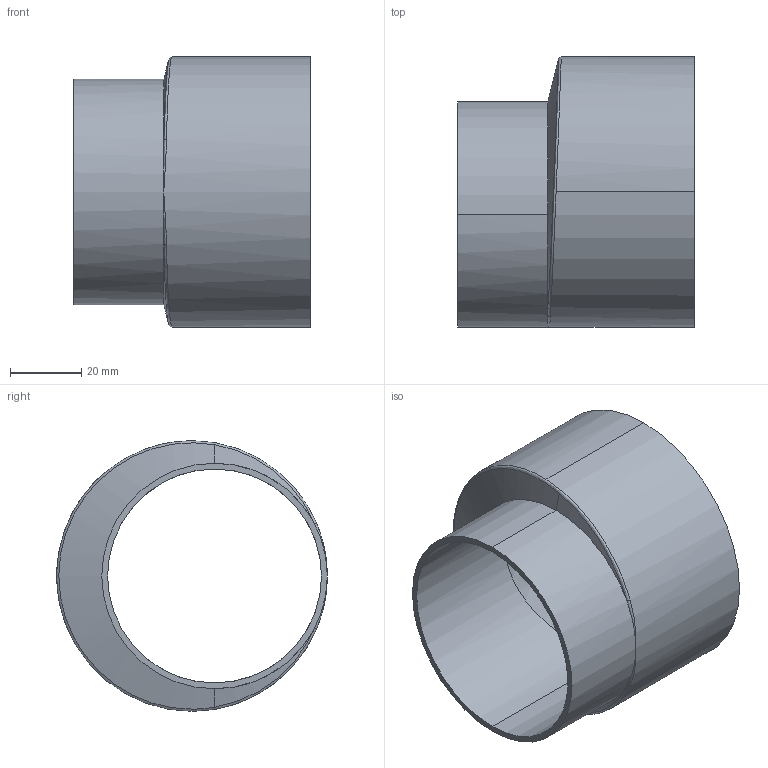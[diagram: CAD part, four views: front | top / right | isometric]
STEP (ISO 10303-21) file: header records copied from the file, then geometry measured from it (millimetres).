
FILE_DESCRIPTION (( 'STEP AP214' ), '1' );
FILE_NAME ('TE32SWW6L3.0x2.5-...STEP', '2016-06-01T08:28:08', ( 'eran' ), ( '' ), 'SwSTEP 2.0', 'SolidWorks 2016', '' );
FILE_SCHEMA (( 'AUTOMOTIVE_DESIGN' ));
Length unit declared in the file: millimetre
Products named in the file (1): TE32SWW6L3.0x2.5-..
Bounding box: 66.67 x 76.2 x 76.2 mm (x, y, z)
Volume: 54077.1 mm3; surface area: 30313.5 mm2
Topology: 1 solids, 1 shells, 22 faces, 53 edges, 29 vertices
Faces by surface type: cylinder 8, cone 5, bspline 5, torus 2, plane 2
Entity records: 1484 total; most frequent: CARTESIAN_POINT 992, ORIENTED_EDGE 98, DIRECTION 91, EDGE_CURVE 49, AXIS2_PLACEMENT_3D 40, VERTEX_POINT 29, EDGE_LOOP 24, ADVANCED_FACE 22
